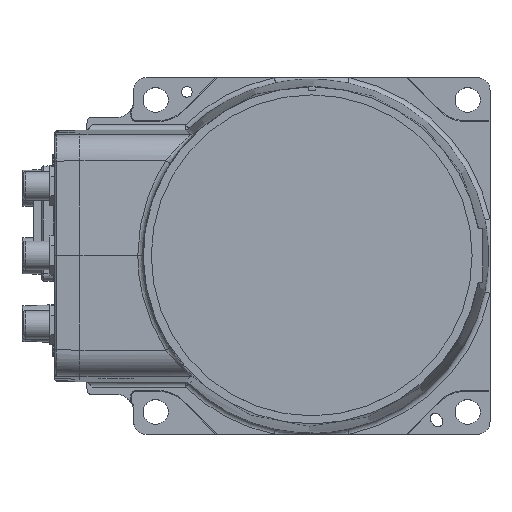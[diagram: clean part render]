
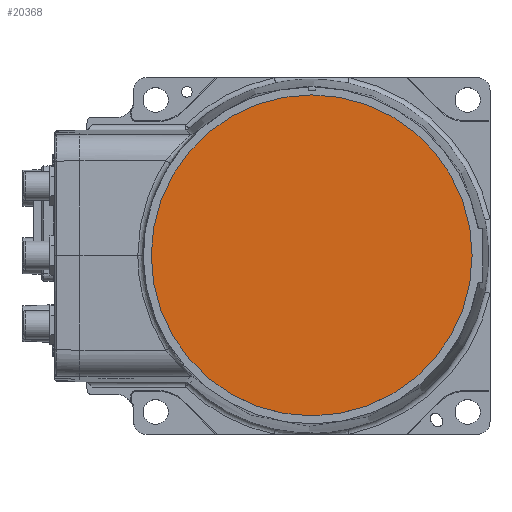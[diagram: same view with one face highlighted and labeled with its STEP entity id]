
A CAD part, top view. The second image highlights one B-rep face of the part: STEP entity #20368.
In plain terms, the highlighted planar face has unit normal (0, 0, 1).
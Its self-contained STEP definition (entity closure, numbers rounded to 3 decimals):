
#161 = DIRECTION ( 'NONE',  ( 0., 0., 1. ) ) ;
#1423 = FACE_OUTER_BOUND ( 'NONE', #15690, .T. ) ;
#4646 = VERTEX_POINT ( 'NONE', #22853 ) ;
#8676 = AXIS2_PLACEMENT_3D ( 'NONE', #27871, #161, #37202 ) ;
#15690 = EDGE_LOOP ( 'NONE', ( #29395 ) ) ;
#19435 = AXIS2_PLACEMENT_3D ( 'NONE', #38846, #28942, #35419 ) ;
#19834 = PLANE ( 'NONE',  #19435 ) ;
#20368 = ADVANCED_FACE ( 'NONE', ( #1423 ), #19834, .T. ) ;
#22853 = CARTESIAN_POINT ( 'NONE',  ( 90., 0., 217.5 ) ) ;
#24825 = CIRCLE ( 'NONE', #8676, 90. ) ;
#27871 = CARTESIAN_POINT ( 'NONE',  ( 0., 0., 217.5 ) ) ;
#28942 = DIRECTION ( 'NONE',  ( 0., 0., 1. ) ) ;
#29395 = ORIENTED_EDGE ( 'NONE', *, *, #39600, .T. ) ;
#35419 = DIRECTION ( 'NONE',  ( 1., 0., 0. ) ) ;
#37202 = DIRECTION ( 'NONE',  ( 1., 0., 0. ) ) ;
#38846 = CARTESIAN_POINT ( 'NONE',  ( 0., 0., 217.5 ) ) ;
#39600 = EDGE_CURVE ( 'NONE', #4646, #4646, #24825, .T. ) ;
